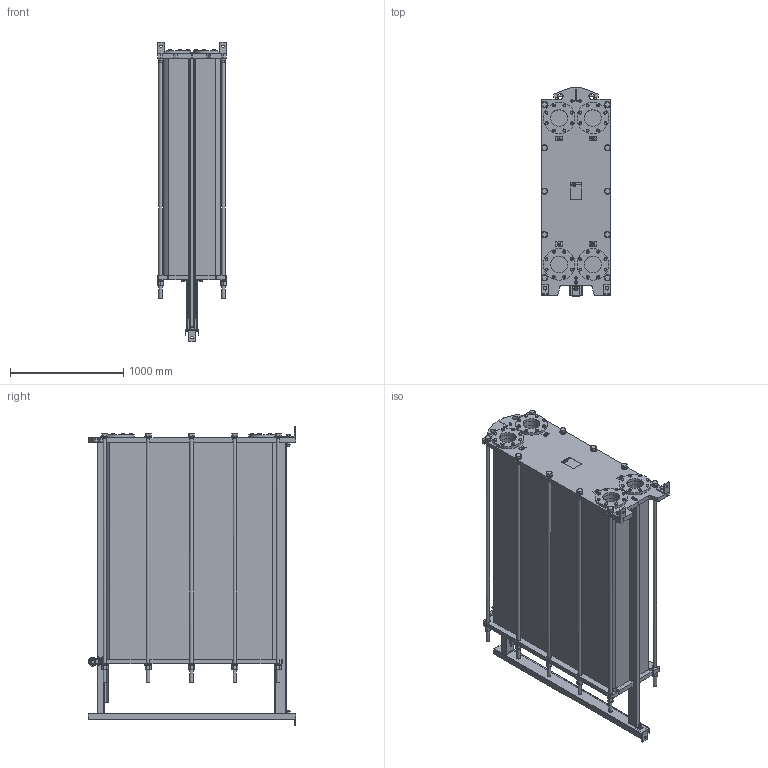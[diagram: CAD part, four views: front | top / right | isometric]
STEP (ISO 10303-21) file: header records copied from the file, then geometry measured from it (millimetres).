
FILE_DESCRIPTION (( 'STEP AP214' ), '1' );
FILE_NAME ('ÏÒ SX150 Óçêèé ðåä 9 íîâûé ðîëèê2+Alfa ñèãìà 241...280.STEP', '2021-04-18T15:38:49', ( '' ), ( '' ), 'SwSTEP 2.0', 'SolidWorks 2018', '' );
FILE_SCHEMA (( 'AUTOMOTIVE_DESIGN' ));
Length unit declared in the file: millimetre
Products named in the file (3): ÏÒ SX150 Óçêèé ðåä 9 íîâûé ðîëèê2+Alfa ñèãìà1; ÏÒ SX150 Óçêèé ðåä 9 íîâûé ðîëèê2+Alfa ñèãìà2 241...280; ÏÒ SX150 Óçêèé ðåä 9 íîâûé ðîëèê2+Alfa ñèãìà 241...280
Assembly tree (2 placements, depth 2):
  ÏÒ SX150 Óçêèé ðåä 9 íîâûé ðîëèê2+Alfa ñèãìà 241...280
    ÏÒ SX150 Óçêèé ðåä 9 íîâûé ðîëèê2+Alfa ñèãìà2 241...280
    ÏÒ SX150 Óçêèé ðåä 9 íîâûé ðîëèê2+Alfa ñèãìà1
Bounding box: 610.97 x 1834 x 2645 mm (x, y, z)
Volume: 1426805480.1 mm3; surface area: 23114221.3 mm2
Topology: 54 solids, 65 shells, 3227 faces, 7599 edges, 4806 vertices
Faces by surface type: plane 1543, cone 863, cylinder 497, bspline 275, torus 49
Full cylindrical faces by diameter (mm): 12 x24, 13 x16, 14 x8, 16 x32, 17 x32, 18 x32, 20 x9, 22 x9, 23 x5, 24 x16, 30 x20, 32 x20, 37 x5, 41 x20, 55 x20, 59.5 x1, 60.5 x1, 80 x1, 148 x12, 148.01 x4, 216 x4, 280 x4
Entity records: 132903 total; most frequent: CARTESIAN_POINT 29783, ORIENTED_EDGE 13728, DIRECTION 12884, EDGE_CURVE 6864, AXIS2_PLACEMENT_3D 4851, VERTEX_POINT 4660, EDGE_LOOP 4286, FACE_OUTER_BOUND 3571
